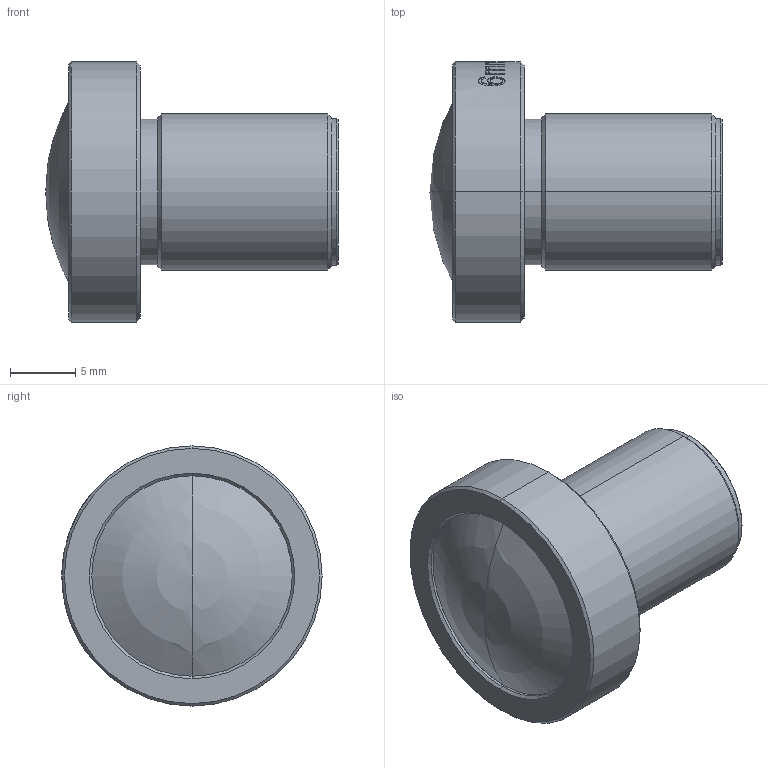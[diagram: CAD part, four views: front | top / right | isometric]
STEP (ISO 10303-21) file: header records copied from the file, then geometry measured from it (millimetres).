
FILE_DESCRIPTION((''),'2;1');
FILE_NAME('PRT0009','2025-04-27T15:10:22',('user'),(''),'CREO PARAMETRIC BY PTC INC, 2022073','CREO PARAMETRIC BY PTC INC, 2022073','');
FILE_SCHEMA(('CONFIG_CONTROL_DESIGN'));
Length unit declared in the file: millimetre
Products named in the file (1): PRT0009
Bounding box: 22.48 x 20 x 20 mm (x, y, z)
Volume: 3495.7 mm3; surface area: 1741.3 mm2
Topology: 1 solids, 1 shells, 211 faces, 555 edges, 361 vertices
Faces by surface type: bspline 114, plane 47, cylinder 26, cone 22, sphere 2
Entity records: 17101 total; most frequent: CARTESIAN_POINT 12573, ORIENTED_EDGE 1106, DIRECTION 609, EDGE_CURVE 553, VERTEX_POINT 361, VECTOR 235, LINE 235, EDGE_LOOP 228
